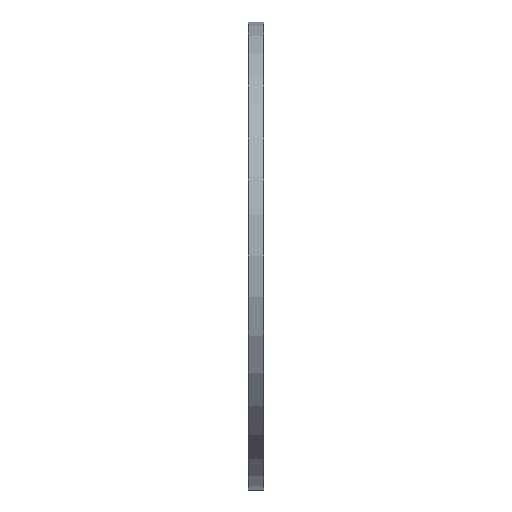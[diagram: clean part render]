
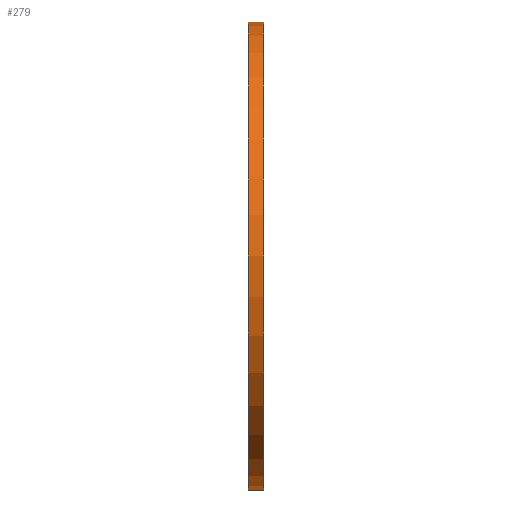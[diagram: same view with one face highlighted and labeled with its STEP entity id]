
A CAD part, left-side view. The second image highlights one B-rep face of the part: STEP entity #279.
In plain terms, the highlighted cylindrical face has radius 222.5 mm (diameter 445 mm), a partial arc.
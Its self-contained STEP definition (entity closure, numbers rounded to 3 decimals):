
#53 = DIRECTION ( 'NONE',  ( 0., 1., 0. ) ) ;
#55 = CARTESIAN_POINT ( 'NONE',  ( 0., 0., 0. ) ) ;
#57 = CARTESIAN_POINT ( 'NONE',  ( 0., 38.545, 0. ) ) ;
#69 = EDGE_LOOP ( 'NONE', ( #745, #493, #158, #456 ) ) ;
#71 = CARTESIAN_POINT ( 'NONE',  ( 0., 38.545, -222.5 ) ) ;
#101 = CARTESIAN_POINT ( 'NONE',  ( 0., 0., -222.5 ) ) ;
#158 = ORIENTED_EDGE ( 'NONE', *, *, #883, .T. ) ;
#189 = VERTEX_POINT ( 'NONE', #263 ) ;
#240 = VECTOR ( 'NONE', #358, 1000. ) ;
#263 = CARTESIAN_POINT ( 'NONE',  ( 0., 0., 222.5 ) ) ;
#265 = LINE ( 'NONE', #528, #240 ) ;
#279 = ADVANCED_FACE ( 'NONE', ( #408 ), #869, .T. ) ;
#336 = AXIS2_PLACEMENT_3D ( 'NONE', #55, #419, #781 ) ;
#340 = DIRECTION ( 'NONE',  ( 0., 1., 0. ) ) ;
#351 = LINE ( 'NONE', #71, #1043 ) ;
#358 = DIRECTION ( 'NONE',  ( 0., 1., 0. ) ) ;
#373 = AXIS2_PLACEMENT_3D ( 'NONE', #995, #1170, #888 ) ;
#408 = FACE_OUTER_BOUND ( 'NONE', #69, .T. ) ;
#419 = DIRECTION ( 'NONE',  ( 0., 1., 0. ) ) ;
#441 = CARTESIAN_POINT ( 'NONE',  ( 0., 15., 222.5 ) ) ;
#456 = ORIENTED_EDGE ( 'NONE', *, *, #1081, .F. ) ;
#493 = ORIENTED_EDGE ( 'NONE', *, *, #969, .T. ) ;
#528 = CARTESIAN_POINT ( 'NONE',  ( 0., 38.545, 222.5 ) ) ;
#745 = ORIENTED_EDGE ( 'NONE', *, *, #1054, .F. ) ;
#764 = VERTEX_POINT ( 'NONE', #101 ) ;
#781 = DIRECTION ( 'NONE',  ( 0., 0., 1. ) ) ;
#822 = VERTEX_POINT ( 'NONE', #926 ) ;
#854 = CIRCLE ( 'NONE', #336, 222.5 ) ;
#869 = CYLINDRICAL_SURFACE ( 'NONE', #1169, 222.5 ) ;
#883 = EDGE_CURVE ( 'NONE', #189, #925, #265, .T. ) ;
#888 = DIRECTION ( 'NONE',  ( 0., 0., 1. ) ) ;
#925 = VERTEX_POINT ( 'NONE', #441 ) ;
#926 = CARTESIAN_POINT ( 'NONE',  ( 0., 15., -222.5 ) ) ;
#948 = CIRCLE ( 'NONE', #373, 222.5 ) ;
#969 = EDGE_CURVE ( 'NONE', #764, #189, #854, .T. ) ;
#995 = CARTESIAN_POINT ( 'NONE',  ( 0., 15., 0. ) ) ;
#1043 = VECTOR ( 'NONE', #340, 1000. ) ;
#1054 = EDGE_CURVE ( 'NONE', #764, #822, #351, .T. ) ;
#1081 = EDGE_CURVE ( 'NONE', #822, #925, #948, .T. ) ;
#1143 = DIRECTION ( 'NONE',  ( 0., 0., 1. ) ) ;
#1169 = AXIS2_PLACEMENT_3D ( 'NONE', #57, #53, #1143 ) ;
#1170 = DIRECTION ( 'NONE',  ( 0., 1., 0. ) ) ;
